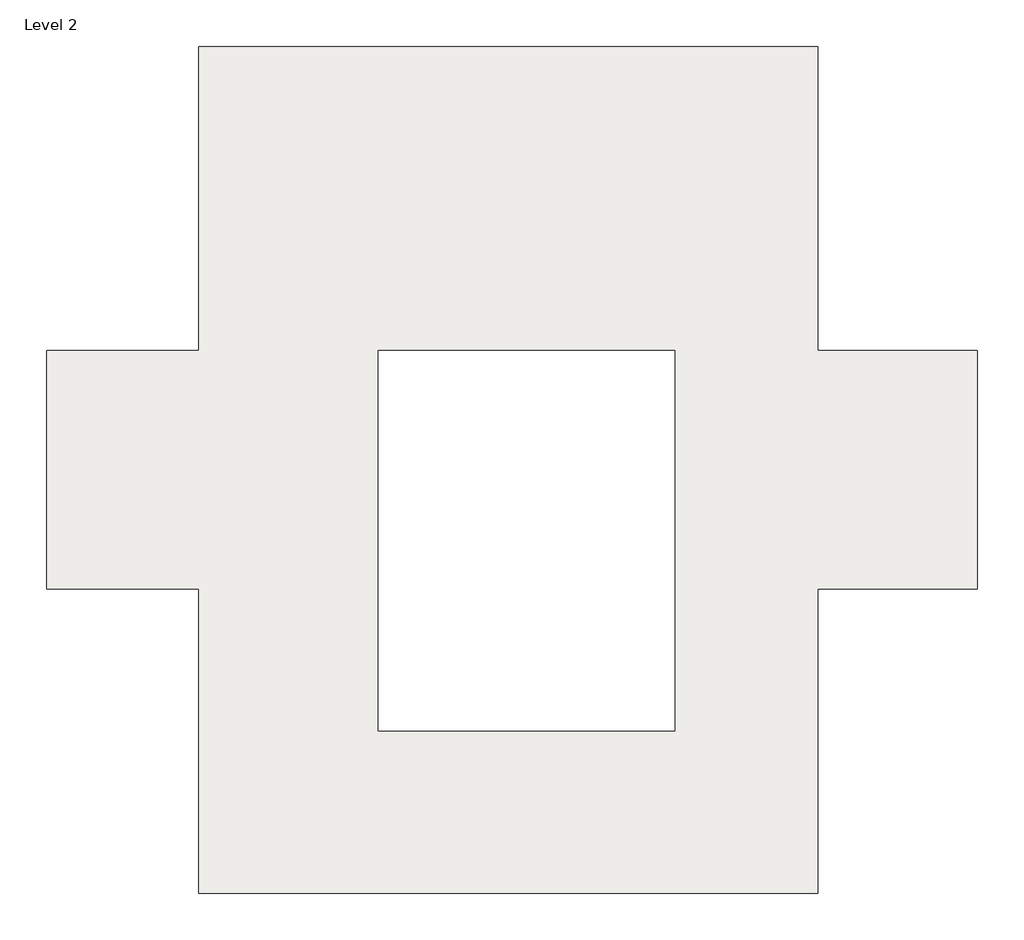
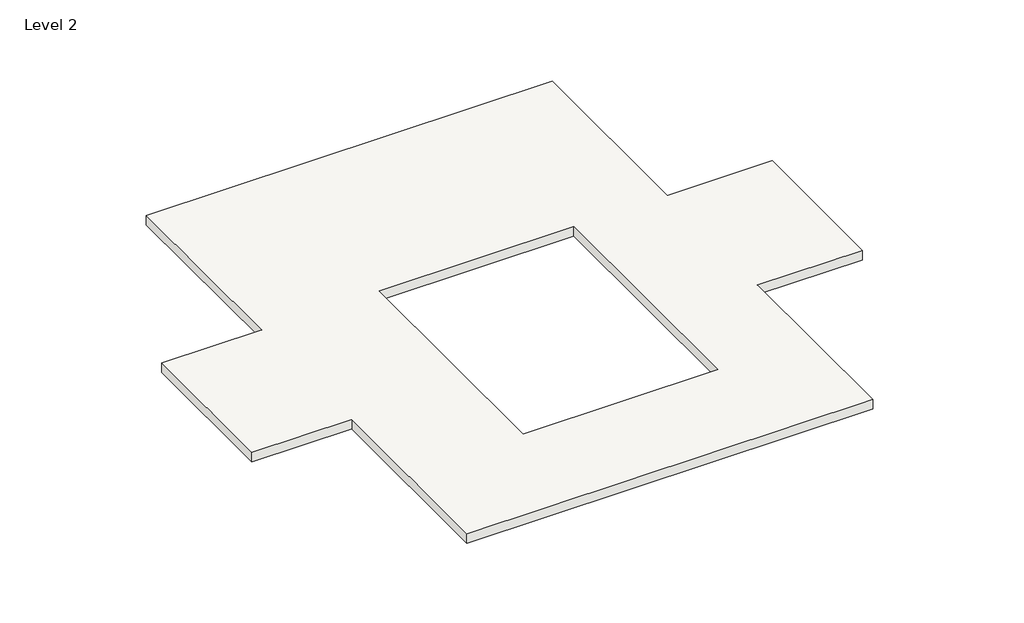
# One storey: 1 roof.
"""IFC4 building model written with IfcOpenShell, lengths in millimetres."""

import ifcopenshell
import ifcopenshell.guid

model = None  # the IFC model being written
_history = None  # IfcOwnerHistory: only IFC2X3 demands one
_inside = {}  # id of a spatial element -> (the spatial element, [elements in it])
_under = {}  # id of a project, library or spatial element -> (it, [spatial elements below it])
_declared = {}  # id of a project -> (the project, [libraries it declares])
_typed = {}  # id of a type object -> (the type object, [elements of that type])
_made_of = {}  # id of a material, layer set ... -> (it, [elements and type objects made of it])


def new_model(schema):
    """Start an empty IFC model of exactly this schema.

    Asked for "IFC4X3", IfcOpenShell would pick the latest addendum, in which some entities
    have other attributes; the version numbers below select the first issue.
    IFC2X3 requires an IfcOwnerHistory on every rooted entity: one is made here for all.
    """
    global model, _history
    if schema == "IFC4X3":
        model = ifcopenshell.file(schema_version=(4, 3, 0, 0))
    else:
        model = ifcopenshell.file(schema=schema)
    _inside.clear()
    _under.clear()
    _declared.clear()
    _typed.clear()
    _made_of.clear()
    _history = None
    if model.schema == "IFC2X3":
        org = make("IfcOrganization", Name="unknown")
        user = make(
            "IfcPersonAndOrganization",
            ThePerson=make("IfcPerson", FamilyName="unknown"),
            TheOrganization=org,
        )
        app = make(
            "IfcApplication",
            ApplicationDeveloper=org,
            Version="unknown",
            ApplicationFullName="unknown",
            ApplicationIdentifier="unknown",
        )
        _history = make(
            "IfcOwnerHistory",
            OwningUser=user,
            OwningApplication=app,
            ChangeAction="ADDED",
            CreationDate=0,
        )
    return model


def make(cls, **values):
    """One entity of the class cls with the attributes given. An attribute that is None is left unset."""
    return model.create_entity(
        cls, **{name: value for name, value in values.items() if value is not None}
    )


def rooted(cls, **values):
    """An entity with a GlobalId (a new one), such as an element, a storey or a relation."""
    return make(cls, GlobalId=ifcopenshell.guid.new(), OwnerHistory=_history, **values)


def si_unit(unit_type, name, prefix=None):
    """IfcSIUnit, for example si_unit("LENGTHUNIT", "METRE", prefix="MILLI")."""
    return make("IfcSIUnit", UnitType=unit_type, Prefix=prefix, Name=name)


def assignment(units):
    """IfcUnitAssignment: the units of a project."""
    return None if units is None else make("IfcUnitAssignment", Units=units)


def point(xyz):
    """IfcCartesianPoint."""
    return None if xyz is None else make("IfcCartesianPoint", Coordinates=xyz)


def direction(xyz):
    """IfcDirection."""
    return None if xyz is None else make("IfcDirection", DirectionRatios=xyz)


def frame(location, z_axis=None, x_axis=None):
    """IfcAxis2Placement3D, a coordinate frame: its origin and axes. An axis left out is left unset."""
    return make(
        "IfcAxis2Placement3D",
        Location=point(location),
        Axis=direction(z_axis),
        RefDirection=direction(x_axis),
    )


def origin():
    """The frame at (0, 0, 0) with its axes left unset."""
    return frame((0.0, 0.0, 0.0))


def place(relative_to, where):
    """IfcLocalPlacement: puts the frame where relative to a parent placement (None: the world)."""
    return make(
        "IfcLocalPlacement", PlacementRelTo=relative_to, RelativePlacement=where
    )


def context(
    kind, dimensions, precision=None, world=None, true_north=None, identifier=None
):
    """IfcGeometricRepresentationContext, for example the 3D "Model" context."""
    return make(
        "IfcGeometricRepresentationContext",
        ContextIdentifier=identifier,
        ContextType=kind,
        CoordinateSpaceDimension=dimensions,
        Precision=precision,
        WorldCoordinateSystem=world,
        TrueNorth=true_north,
    )


def project(units=None, contexts=None):
    """IfcProject with its units and contexts."""
    return rooted(
        "IfcProject",
        Name="project",
        RepresentationContexts=contexts,
        UnitsInContext=assignment(units),
    )


def spatial(cls, under=None, at=None, **own):
    """A site, building, storey or space (cls), placed at a placement, below another one or the project."""
    s = rooted(cls, ObjectPlacement=at, **own)
    if under is not None:
        _under.setdefault(under.id(), (under, []))[1].append(s)
    return s


def polyline(points):
    """IfcPolyline through the points."""
    return make("IfcPolyline", Points=[point(p) for p in points])


def outline(outer, holes=None, kind="AREA"):
    """IfcArbitraryClosedProfileDef: a profile drawn as a closed curve; with holes, ...WithVoids."""
    if holes is None:
        return make("IfcArbitraryClosedProfileDef", ProfileType=kind, OuterCurve=outer)
    return make(
        "IfcArbitraryProfileDefWithVoids",
        ProfileType=kind,
        OuterCurve=outer,
        InnerCurves=holes,
    )


def extrude(swept, where, along, depth):
    """IfcExtrudedAreaSolid: the profile swept, set in the frame where, extruded along a direction by depth."""
    return make(
        "IfcExtrudedAreaSolid",
        SweptArea=swept,
        Position=where,
        ExtrudedDirection=direction(along),
        Depth=depth,
    )


def shape(context_of_items, identifier, shape_type, items):
    """IfcShapeRepresentation: the items that make up one representation, for example the "Body"."""
    return make(
        "IfcShapeRepresentation",
        ContextOfItems=context_of_items,
        RepresentationIdentifier=identifier,
        RepresentationType=shape_type,
        Items=items,
    )


def made_of(thing, what):
    """Note that an element or type object is made of a material, layer set ...; save() writes the relation."""
    if what is not None:
        _made_of.setdefault(what.id(), (what, []))[1].append(thing)
    return thing


def element(
    cls,
    number,
    at=None,
    inside=None,
    cuts=None,
    type_object=None,
    material=None,
    context=None,
    identifier="Body",
    shape_type=None,
    held_by="IfcProductDefinitionShape",
    body=None,
    shapes=None,
    **own,
):
    """One element of the class cls, such as IfcWall. Its Tag is "e" and its number.

    at: its placement. inside: the storey or other place that contains it. cuts: it is an
    opening in that element (IfcRelVoidsElement). A single representation is given by context,
    identifier, shape_type and body (its items); several are given by shapes. held_by: the class
    of the entity that holds the representations. save() writes the other relations.
    """
    e = rooted(cls, Tag="e%d" % number, ObjectPlacement=at, **own)
    if body is not None:
        shapes = [shape(context, identifier, shape_type, body)]
    if shapes is not None:
        e.Representation = make(held_by, Representations=shapes)
    if inside is not None:
        _inside.setdefault(inside.id(), (inside, []))[1].append(e)
    if cuts is not None:
        rooted(
            "IfcRelVoidsElement", RelatingBuildingElement=cuts, RelatedOpeningElement=e
        )
    if type_object is not None:
        _typed.setdefault(type_object.id(), (type_object, []))[1].append(e)
    return made_of(e, material)


def aggregate(whole, parts):
    """IfcRelAggregates: a whole, such as a stair, and the parts it consists of."""
    return rooted("IfcRelAggregates", RelatingObject=whole, RelatedObjects=parts)


def save(model, path):
    """Write the relations noted so far, then the file.

    IfcRelAggregates (storeys below a building ...), IfcRelContainedInSpatialStructure (elements
    in a storey), IfcRelDefinesByType, IfcRelAssociatesMaterial and IfcRelDeclares: one each for
    every whole, place, type object, material and project.
    """
    for whole, parts in _under.values():
        aggregate(whole, parts)
    for where, things in _inside.values():
        rooted(
            "IfcRelContainedInSpatialStructure",
            RelatedElements=things,
            RelatingStructure=where,
        )
    for kind, things in _typed.values():
        rooted("IfcRelDefinesByType", RelatedObjects=things, RelatingType=kind)
    for what, things in _made_of.values():
        rooted("IfcRelAssociatesMaterial", RelatedObjects=things, RelatingMaterial=what)
    for by, libraries in _declared.values():
        rooted("IfcRelDeclares", RelatingContext=by, RelatedDefinitions=libraries)
    model.write(path)


model = new_model("IFC4")

# Units and contexts
model_context = context("Model", 3, world=origin())
ifc_project = project(units=[si_unit("LENGTHUNIT", "METRE", prefix="MILLI")], contexts=[model_context])

# Site, building, storey
site = spatial("IfcSite", under=ifc_project)
building = spatial("IfcBuilding", under=site)
storey = spatial("IfcBuildingStorey", under=building, Name="Level 2", Elevation=3048.0)

# Roof
placement = place(None, origin())
element("IfcRoof", 1, ObjectType="Generic - 12\"", at=placement, inside=storey, context=model_context, shape_type="SweptSolid", body=[
    extrude(outline(polyline([(-5661.6356569, 8190.6066271), (6733.5643431, 8190.6066271), (6733.5643431, 2094.6066271), (9933.9643431, 2094.6066271), (9933.9643431, -2680.5933729), (6733.5643431, -2680.5933729), (6733.5643431, -8776.5933729), (-5661.6356569, -8776.5933729), (-5661.6356569, -2680.5933729), (-8709.6356569, -2680.5933729), (-8709.6356569, 2094.6066271), (-5661.6356569, 2094.6066271), (-5661.6356569, 8190.6066271)]), holes=[polyline([(3873.446002, -5525.3933729), (3873.446002, 2094.6066271), (-2070.153998, 2094.6066271), (-2070.153998, -5525.3933729), (3873.446002, -5525.3933729)])]), frame((0.0, 0.0, 3048.0), z_axis=(0.0, 0.0, 1.0), x_axis=(1.0, 0.0, 0.0)), (0.0, 0.0, 1.0), 304.8),
])

save(model, "model.ifc")
